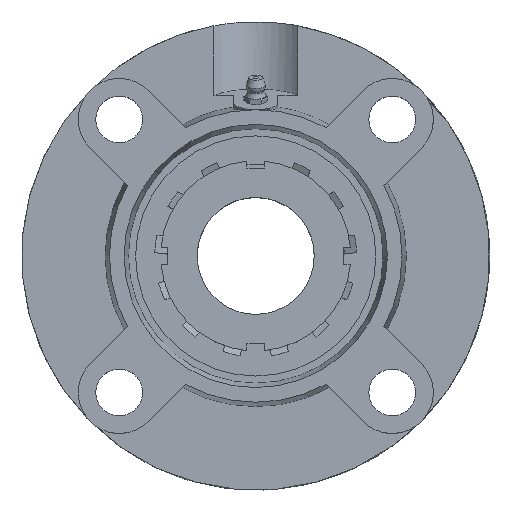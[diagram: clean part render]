
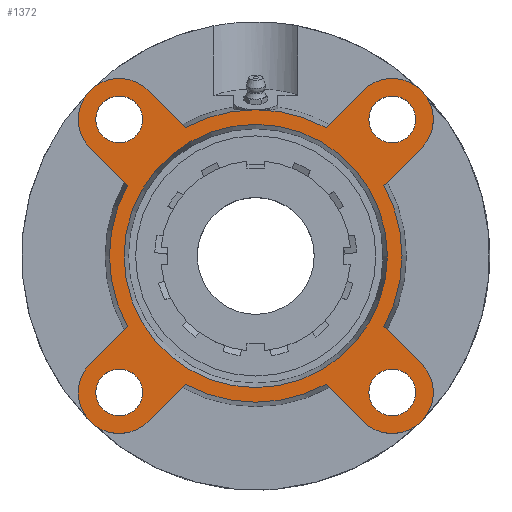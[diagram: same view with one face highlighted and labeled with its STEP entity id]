
A CAD part, top view. The second image highlights one B-rep face of the part: STEP entity #1372.
In plain terms, the highlighted planar face has unit normal (0, 0, 1).
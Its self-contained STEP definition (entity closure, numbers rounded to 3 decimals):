
#181=CARTESIAN_POINT('',(-38.669,-46.669,13.5));
#182=VERTEX_POINT('',#181);
#183=CARTESIAN_POINT('',(-46.669,-46.669,13.5));
#184=DIRECTION('',(0.0,0.0,-1.0));
#185=DIRECTION('',(1.0,0.0,0.0));
#186=AXIS2_PLACEMENT_3D('',#183,#184,#185);
#187=CIRCLE('',#186,8.0);
#188=EDGE_CURVE('',#182,#182,#187,.T.);
#209=CARTESIAN_POINT('',(-38.669,46.669,13.5));
#210=VERTEX_POINT('',#209);
#211=CARTESIAN_POINT('',(-46.669,46.669,13.5));
#212=DIRECTION('',(0.0,0.0,-1.0));
#213=DIRECTION('',(1.0,0.0,0.0));
#214=AXIS2_PLACEMENT_3D('',#211,#212,#213);
#215=CIRCLE('',#214,8.0);
#216=EDGE_CURVE('',#210,#210,#215,.T.);
#237=CARTESIAN_POINT('',(54.669,46.669,13.5));
#238=VERTEX_POINT('',#237);
#239=CARTESIAN_POINT('',(46.669,46.669,13.5));
#240=DIRECTION('',(0.0,0.0,-1.0));
#241=DIRECTION('',(1.0,0.0,0.0));
#242=AXIS2_PLACEMENT_3D('',#239,#240,#241);
#243=CIRCLE('',#242,8.0);
#244=EDGE_CURVE('',#238,#238,#243,.T.);
#265=CARTESIAN_POINT('',(54.669,-46.669,13.5));
#266=VERTEX_POINT('',#265);
#267=CARTESIAN_POINT('',(46.669,-46.669,13.5));
#268=DIRECTION('',(0.0,0.0,-1.0));
#269=DIRECTION('',(1.0,0.0,0.0));
#270=AXIS2_PLACEMENT_3D('',#267,#268,#269);
#271=CIRCLE('',#270,8.0);
#272=EDGE_CURVE('',#266,#266,#271,.T.);
#373=CARTESIAN_POINT('',(0.0,45.0,13.5));
#374=VERTEX_POINT('',#373);
#375=CARTESIAN_POINT('',(0.0,0.,13.5));
#376=DIRECTION('',(0.0,0.0,-1.0));
#377=DIRECTION('',(0.0,1.0,0.0));
#378=AXIS2_PLACEMENT_3D('',#375,#376,#377);
#379=CIRCLE('',#378,45.);
#380=EDGE_CURVE('',#374,#374,#379,.T.);
#670=CARTESIAN_POINT('',(0.,50.,13.5));
#671=VERTEX_POINT('',#670);
#828=CARTESIAN_POINT('',(-24.042,43.841,13.5));
#829=VERTEX_POINT('',#828);
#843=CARTESIAN_POINT('',(0.0,0.,13.5));
#844=DIRECTION('',(0.0,0.0,1.0));
#845=DIRECTION('',(0.0,-1.0,0.0));
#846=AXIS2_PLACEMENT_3D('',#843,#844,#845);
#847=CIRCLE('',#846,50.);
#848=EDGE_CURVE('',#671,#829,#847,.T.);
#858=CARTESIAN_POINT('',(-24.042,-43.841,13.5));
#859=VERTEX_POINT('',#858);
#875=CARTESIAN_POINT('',(-36.77,-56.569,13.5));
#876=VERTEX_POINT('',#875);
#877=CARTESIAN_POINT('',(-24.042,-43.841,13.5));
#878=DIRECTION('',(-0.707,-0.707,0.));
#879=VECTOR('',#878,18.);
#880=LINE('',#877,#879);
#881=EDGE_CURVE('',#859,#876,#880,.T.);
#905=CARTESIAN_POINT('',(-43.841,24.042,13.5));
#906=VERTEX_POINT('',#905);
#922=CARTESIAN_POINT('',(-56.569,36.77,13.5));
#923=VERTEX_POINT('',#922);
#924=CARTESIAN_POINT('',(-43.841,24.042,13.5));
#925=DIRECTION('',(-0.707,0.707,0.));
#926=VECTOR('',#925,18.);
#927=LINE('',#924,#926);
#928=EDGE_CURVE('',#906,#923,#927,.T.);
#952=CARTESIAN_POINT('',(43.841,-24.042,13.5));
#953=VERTEX_POINT('',#952);
#969=CARTESIAN_POINT('',(56.569,-36.77,13.5));
#970=VERTEX_POINT('',#969);
#971=CARTESIAN_POINT('',(43.841,-24.042,13.5));
#972=DIRECTION('',(0.707,-0.707,0.));
#973=VECTOR('',#972,18.);
#974=LINE('',#971,#973);
#975=EDGE_CURVE('',#953,#970,#974,.T.);
#999=CARTESIAN_POINT('',(24.042,43.841,13.5));
#1000=VERTEX_POINT('',#999);
#1014=CARTESIAN_POINT('',(36.77,56.569,13.5));
#1015=VERTEX_POINT('',#1014);
#1016=CARTESIAN_POINT('',(24.042,43.841,13.5));
#1017=DIRECTION('',(0.707,0.707,0.));
#1018=VECTOR('',#1017,18.);
#1019=LINE('',#1016,#1018);
#1020=EDGE_CURVE('',#1000,#1015,#1019,.T.);
#1039=CARTESIAN_POINT('',(43.841,24.042,13.5));
#1040=VERTEX_POINT('',#1039);
#1062=CARTESIAN_POINT('',(56.569,36.77,13.5));
#1063=VERTEX_POINT('',#1062);
#1070=CARTESIAN_POINT('',(56.569,36.77,13.5));
#1071=DIRECTION('',(-0.707,-0.707,0.));
#1072=VECTOR('',#1071,18.);
#1073=LINE('',#1070,#1072);
#1074=EDGE_CURVE('',#1063,#1040,#1073,.T.);
#1084=CARTESIAN_POINT('',(-56.569,-36.77,13.5));
#1085=VERTEX_POINT('',#1084);
#1086=CARTESIAN_POINT('',(-46.669,-46.669,13.5));
#1087=DIRECTION('',(0.0,0.0,-1.0));
#1088=DIRECTION('',(-0.707,0.707,0.0));
#1089=AXIS2_PLACEMENT_3D('',#1086,#1087,#1088);
#1090=CIRCLE('',#1089,14.0);
#1091=EDGE_CURVE('',#876,#1085,#1090,.T.);
#1126=CARTESIAN_POINT('',(-43.841,-24.042,13.5));
#1127=VERTEX_POINT('',#1126);
#1148=CARTESIAN_POINT('',(-56.569,-36.77,13.5));
#1149=DIRECTION('',(0.707,0.707,0.));
#1150=VECTOR('',#1149,18.0);
#1151=LINE('',#1148,#1150);
#1152=EDGE_CURVE('',#1085,#1127,#1151,.T.);
#1162=CARTESIAN_POINT('',(-36.77,56.569,13.5));
#1163=VERTEX_POINT('',#1162);
#1164=CARTESIAN_POINT('',(-46.669,46.669,13.5));
#1165=DIRECTION('',(0.0,0.0,-1.0));
#1166=DIRECTION('',(0.707,0.707,0.0));
#1167=AXIS2_PLACEMENT_3D('',#1164,#1165,#1166);
#1168=CIRCLE('',#1167,14.);
#1169=EDGE_CURVE('',#923,#1163,#1168,.T.);
#1197=CARTESIAN_POINT('',(-36.77,56.569,13.5));
#1198=DIRECTION('',(0.707,-0.707,0.));
#1199=VECTOR('',#1198,18.);
#1200=LINE('',#1197,#1199);
#1201=EDGE_CURVE('',#1163,#829,#1200,.T.);
#1211=CARTESIAN_POINT('',(36.77,-56.569,13.5));
#1212=VERTEX_POINT('',#1211);
#1213=CARTESIAN_POINT('',(46.669,-46.669,13.5));
#1214=DIRECTION('',(0.0,0.0,-1.0));
#1215=DIRECTION('',(-0.707,-0.707,0.0));
#1216=AXIS2_PLACEMENT_3D('',#1213,#1214,#1215);
#1217=CIRCLE('',#1216,14.);
#1218=EDGE_CURVE('',#970,#1212,#1217,.T.);
#1253=CARTESIAN_POINT('',(24.042,-43.841,13.5));
#1254=VERTEX_POINT('',#1253);
#1275=CARTESIAN_POINT('',(36.77,-56.569,13.5));
#1276=DIRECTION('',(-0.707,0.707,0.));
#1277=VECTOR('',#1276,18.);
#1278=LINE('',#1275,#1277);
#1279=EDGE_CURVE('',#1212,#1254,#1278,.T.);
#1289=CARTESIAN_POINT('',(46.669,46.669,13.5));
#1290=DIRECTION('',(0.0,0.0,-1.0));
#1291=DIRECTION('',(0.707,-0.707,0.0));
#1292=AXIS2_PLACEMENT_3D('',#1289,#1290,#1291);
#1293=CIRCLE('',#1292,14.);
#1294=EDGE_CURVE('',#1015,#1063,#1293,.T.);
#1309=CARTESIAN_POINT('',(0.0,-25.0,13.5));
#1310=DIRECTION('',(0.0,0.0,1.0));
#1311=DIRECTION('',(1.0,0.0,0.0));
#1312=AXIS2_PLACEMENT_3D('',#1309,#1310,#1311);
#1313=PLANE('',#1312);
#1314=CARTESIAN_POINT('',(0.0,0.,13.5));
#1315=DIRECTION('',(0.0,0.0,1.0));
#1316=DIRECTION('',(0.0,-1.0,0.0));
#1317=AXIS2_PLACEMENT_3D('',#1314,#1315,#1316);
#1318=CIRCLE('',#1317,50.);
#1319=EDGE_CURVE('',#859,#1254,#1318,.T.);
#1320=ORIENTED_EDGE('',*,*,#1319,.T.);
#1321=ORIENTED_EDGE('',*,*,#1279,.F.);
#1322=ORIENTED_EDGE('',*,*,#1218,.F.);
#1323=ORIENTED_EDGE('',*,*,#975,.F.);
#1324=CARTESIAN_POINT('',(0.0,0.,13.5));
#1325=DIRECTION('',(0.0,0.0,1.0));
#1326=DIRECTION('',(0.0,-1.0,0.0));
#1327=AXIS2_PLACEMENT_3D('',#1324,#1325,#1326);
#1328=CIRCLE('',#1327,50.);
#1329=EDGE_CURVE('',#953,#1040,#1328,.T.);
#1330=ORIENTED_EDGE('',*,*,#1329,.T.);
#1331=ORIENTED_EDGE('',*,*,#1074,.F.);
#1332=ORIENTED_EDGE('',*,*,#1294,.F.);
#1333=ORIENTED_EDGE('',*,*,#1020,.F.);
#1334=CARTESIAN_POINT('',(0.0,0.,13.5));
#1335=DIRECTION('',(0.0,0.0,1.0));
#1336=DIRECTION('',(0.0,-1.0,0.0));
#1337=AXIS2_PLACEMENT_3D('',#1334,#1335,#1336);
#1338=CIRCLE('',#1337,50.);
#1339=EDGE_CURVE('',#1000,#671,#1338,.T.);
#1340=ORIENTED_EDGE('',*,*,#1339,.T.);
#1341=ORIENTED_EDGE('',*,*,#848,.T.);
#1342=ORIENTED_EDGE('',*,*,#1201,.F.);
#1343=ORIENTED_EDGE('',*,*,#1169,.F.);
#1344=ORIENTED_EDGE('',*,*,#928,.F.);
#1345=CARTESIAN_POINT('',(0.0,0.,13.5));
#1346=DIRECTION('',(0.0,0.0,1.0));
#1347=DIRECTION('',(0.0,-1.0,0.0));
#1348=AXIS2_PLACEMENT_3D('',#1345,#1346,#1347);
#1349=CIRCLE('',#1348,50.);
#1350=EDGE_CURVE('',#906,#1127,#1349,.T.);
#1351=ORIENTED_EDGE('',*,*,#1350,.T.);
#1352=ORIENTED_EDGE('',*,*,#1152,.F.);
#1353=ORIENTED_EDGE('',*,*,#1091,.F.);
#1354=ORIENTED_EDGE('',*,*,#881,.F.);
#1355=EDGE_LOOP('',(#1320,#1321,#1322,#1323,#1330,#1331,#1332,#1333,#1340,#1341,#1342,#1343,#1344,#1351,#1352,#1353,#1354));
#1356=FACE_OUTER_BOUND('',#1355,.T.);
#1357=ORIENTED_EDGE('',*,*,#188,.T.);
#1358=EDGE_LOOP('',(#1357));
#1359=FACE_BOUND('',#1358,.T.);
#1360=ORIENTED_EDGE('',*,*,#216,.T.);
#1361=EDGE_LOOP('',(#1360));
#1362=FACE_BOUND('',#1361,.T.);
#1363=ORIENTED_EDGE('',*,*,#244,.T.);
#1364=EDGE_LOOP('',(#1363));
#1365=FACE_BOUND('',#1364,.T.);
#1366=ORIENTED_EDGE('',*,*,#272,.T.);
#1367=EDGE_LOOP('',(#1366));
#1368=FACE_BOUND('',#1367,.T.);
#1369=ORIENTED_EDGE('',*,*,#380,.T.);
#1370=EDGE_LOOP('',(#1369));
#1371=FACE_BOUND('',#1370,.T.);
#1372=ADVANCED_FACE('',(#1356,#1359,#1362,#1365,#1368,#1371),#1313,.T.);
